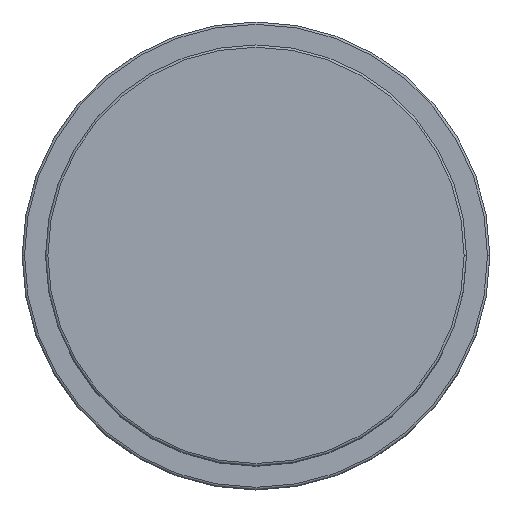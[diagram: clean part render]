
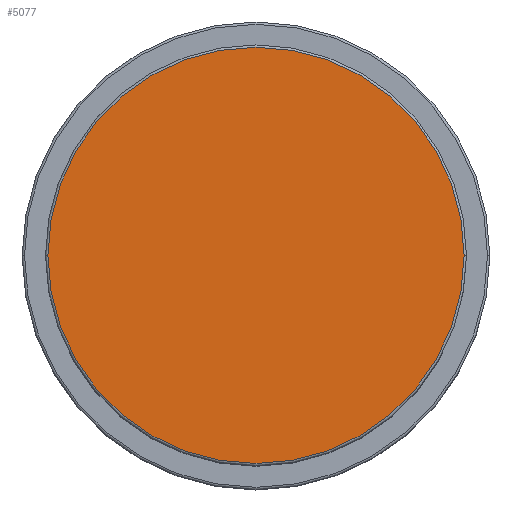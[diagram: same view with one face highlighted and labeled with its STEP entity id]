
A CAD part, top view. The second image highlights one B-rep face of the part: STEP entity #5077.
In plain terms, the highlighted planar face has unit normal (0, 0, 1).
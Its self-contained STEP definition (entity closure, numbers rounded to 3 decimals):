
#420 = PLANE ( 'NONE',  #3726 ) ;
#451 = DIRECTION ( 'NONE',  ( 0., 0., 1. ) ) ;
#483 = CARTESIAN_POINT ( 'NONE',  ( 0., 0., 77. ) ) ;
#626 = AXIS2_PLACEMENT_3D ( 'NONE', #1630, #5540, #4315 ) ;
#727 = CIRCLE ( 'NONE', #626, 44.5 ) ;
#1087 = EDGE_CURVE ( 'NONE', #4524, #3349, #727, .T. ) ;
#1582 = EDGE_LOOP ( 'NONE', ( #7148, #1725 ) ) ;
#1630 = CARTESIAN_POINT ( 'NONE',  ( 0., 0., 77. ) ) ;
#1725 = ORIENTED_EDGE ( 'NONE', *, *, #1087, .T. ) ;
#1921 = EDGE_CURVE ( 'NONE', #3349, #4524, #3600, .T. ) ;
#2013 = CARTESIAN_POINT ( 'NONE',  ( 44.5, 0., 77. ) ) ;
#2650 = DIRECTION ( 'NONE',  ( 1., 0., 0. ) ) ;
#3265 = FACE_OUTER_BOUND ( 'NONE', #1582, .T. ) ;
#3349 = VERTEX_POINT ( 'NONE', #2013 ) ;
#3600 = CIRCLE ( 'NONE', #4893, 44.5 ) ;
#3726 = AXIS2_PLACEMENT_3D ( 'NONE', #4371, #6612, #4349 ) ;
#4315 = DIRECTION ( 'NONE',  ( 1., 0., 0. ) ) ;
#4349 = DIRECTION ( 'NONE',  ( 1., 0., 0. ) ) ;
#4371 = CARTESIAN_POINT ( 'NONE',  ( 0., 0., 77. ) ) ;
#4524 = VERTEX_POINT ( 'NONE', #6282 ) ;
#4893 = AXIS2_PLACEMENT_3D ( 'NONE', #483, #451, #2650 ) ;
#5077 = ADVANCED_FACE ( 'NONE', ( #3265 ), #420, .T. ) ;
#5540 = DIRECTION ( 'NONE',  ( 0., 0., 1. ) ) ;
#6282 = CARTESIAN_POINT ( 'NONE',  ( -44.5, 0., 77. ) ) ;
#6612 = DIRECTION ( 'NONE',  ( 0., 0., 1. ) ) ;
#7148 = ORIENTED_EDGE ( 'NONE', *, *, #1921, .T. ) ;
